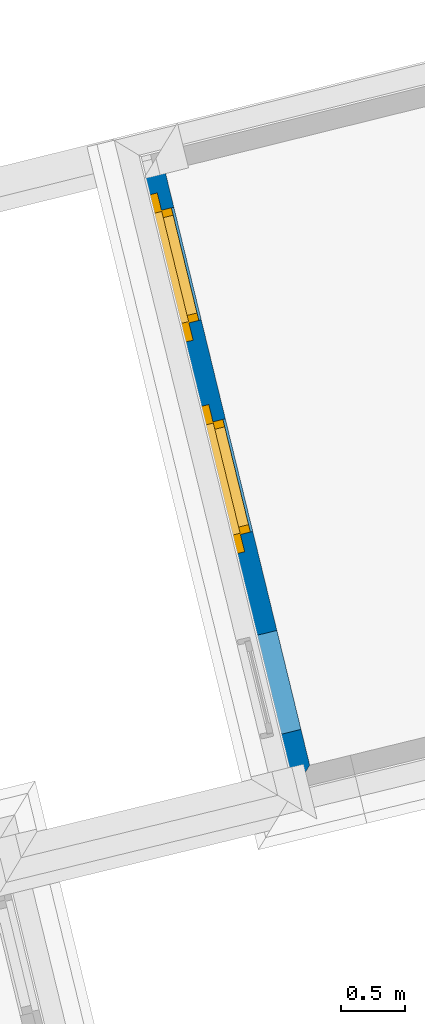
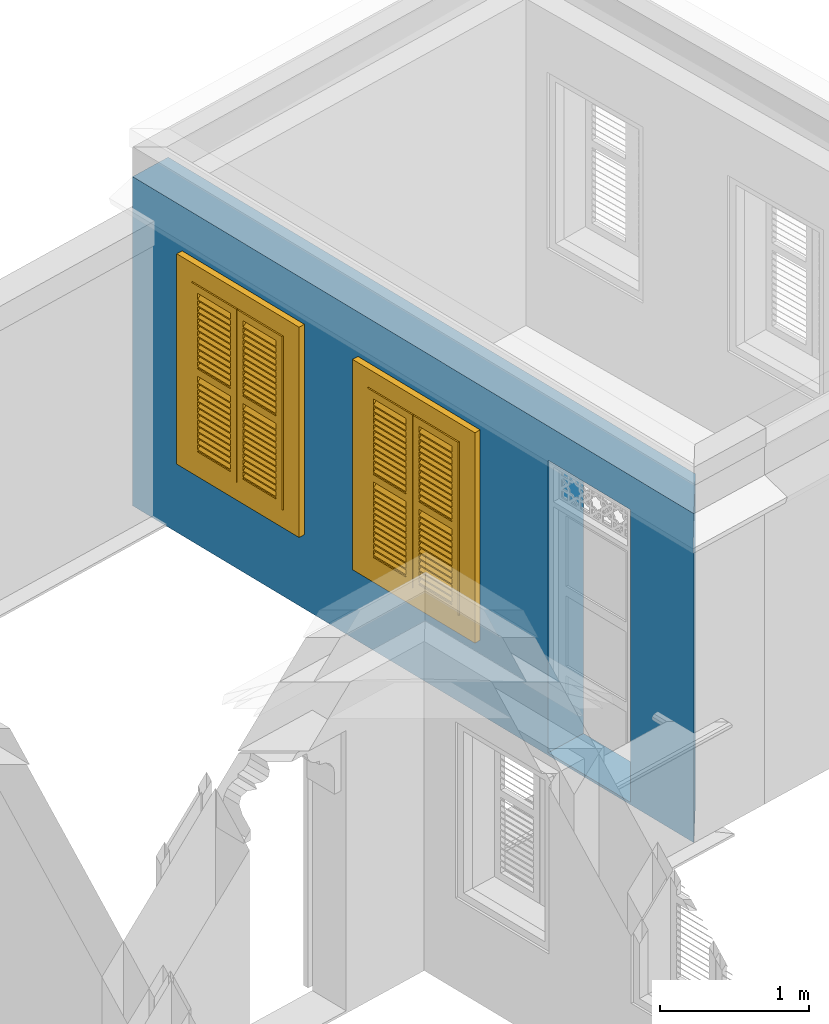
# One storey, part 4 of 7: 2 windows, 1 wall, 3 openings.
"""IFC4 building model written with IfcOpenShell, lengths in metres."""

from ifc_helpers import new_model, si_unit, frame, origin, origin_with_axes, place, context, subcontext, project, spatial, polyline, outline, extrude, faceted_brep, source, transform, mapped, material, layer, layer_set, layer_usage, type_object, type_shapes, element, fill, save


model = new_model("IFC4")

# Units and contexts
model_context = context("Model", 3, world=origin_with_axes())
body_context = subcontext(model_context, "Body", "Model", "MODEL_VIEW")
ifc_project = project(units=[si_unit("PLANEANGLEUNIT", "RADIAN"), si_unit("MASSUNIT", "GRAM", prefix="KILO"), si_unit("FORCEUNIT", "NEWTON", prefix="KILO"), si_unit("LENGTHUNIT", "METRE"), si_unit("AREAUNIT", "SQUARE_METRE"), si_unit("VOLUMEUNIT", "CUBIC_METRE")], contexts=[model_context, model_context])

# Site, building, storey
site_placement = place(None, origin_with_axes())
site = spatial("IfcSite", under=ifc_project, at=site_placement, Name="Site plot-4", CompositionType="ELEMENT")
building_placement = place(None, origin_with_axes())
building = spatial("IfcBuilding", under=site, at=building_placement, Name="Building plot-4", CompositionType="ELEMENT")
storey_placement = place(None, frame((0.0, 0.0, 5.4), z_axis=(0.0, 0.0, 1.0), x_axis=(1.0, 0.0, 0.0)))
storey = spatial("IfcBuildingStorey", under=building, at=storey_placement, Name="plot-4 2", CompositionType="ELEMENT", Elevation=5.4)

# Wall, openings, windows
ifc_material = material(Name="Masonry")
ifc_layer = layer(ifc_material, 0.33, ventilated=False)
ifc_layer_set = layer_set([ifc_layer], Name="exterior_0.08_0.25")
ifc_layer_usage = layer_usage(ifc_layer_set, "AXIS2", "POSITIVE", -0.25)
wall_type = type_object("IfcWallType", Name="exterior_0.08_0.25", PredefinedType="SOLIDWALL", material=ifc_layer_set)
wall_placement = place(storey_placement, frame((22.2331143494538, 20.4401934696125, 0.0), z_axis=(0.0, 0.0, 1.0), x_axis=(0.236608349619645, -0.971605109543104, 0.0)))
wall = element("IfcWall", 1, at=wall_placement, inside=storey, type_object=wall_type, material=ifc_layer_usage, Name="exterior", context=body_context, shape_type="SweptSolid", body=[
    extrude(outline(polyline([(-0.250000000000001, 0.0800000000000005), (-0.25, -0.25), (5.21117739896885, -0.250000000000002), (4.88117739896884, 0.0800000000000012), (-0.250000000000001, 0.0800000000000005)])), origin_with_axes(), (0.0, 0.0, 1.0), 2.7),
])
opening_1_placement = place(wall_placement, frame((0.371862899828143, 0.0, 0.75)))
opening_1 = element("IfcOpeningElement", 2, at=opening_1_placement, cuts=wall, Name="My Opening", ObjectType="Opening", context=body_context, shape_type="SweptSolid", body=[
    extrude(outline(polyline([(0.0, -0.269999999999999), (0.909999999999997, -0.270000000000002), (0.909999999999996, 1.1), (-3.33066907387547e-16, 1.1), (0.0, -0.269999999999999)])), origin_with_axes(), (0.0, 0.0, 1.0), 1.445),
])
opening_2_placement = place(wall_placement, frame((2.08186289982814, 0.0, 0.75)))
opening_2 = element("IfcOpeningElement", 3, at=opening_2_placement, cuts=wall, Name="My Opening", ObjectType="Opening", context=body_context, shape_type="SweptSolid", body=[
    extrude(outline(polyline([(0.0, -0.269999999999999), (0.910000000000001, -0.269999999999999), (0.910000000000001, 1.1), (-4.44089209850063e-16, 1.1), (0.0, -0.269999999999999)])), origin_with_axes(), (0.0, 0.0, 1.0), 1.445),
])
opening_3_placement = place(wall_placement, frame((3.79186289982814, 0.0, 0.0199999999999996)))
element("IfcOpeningElement", 4, at=opening_3_placement, cuts=wall, Name="My Opening", ObjectType="Opening", context=body_context, shape_type="SweptSolid", body=[
    extrude(outline(polyline([(0.0, -0.270000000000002), (0.800000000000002, -0.269999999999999), (0.800000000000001, 1.1), (-8.88178419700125e-16, 1.1), (0.0, -0.270000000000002)])), origin_with_axes(), (0.0, 0.0, 1.0), 2.4),
])
window_type = type_object("IfcWindowType", Name="shuttered_shorter", PartitioningType="DOUBLE_PANEL_HORIZONTAL", PredefinedType="NOTDEFINED")
shared_shape = source(origin(), body_context, "Body", "Brep", [
    faceted_brep([(0.393, 0.0, 0.622), (0.074, 0.0, 0.622), (0.074, 0.0, 0.632), (0.393, 0.0, 0.632), (0.074, -0.04, 0.592), (0.393, -0.04, 0.592), (0.393, -0.04, 0.582), (0.074, -0.04, 0.582), (0.517, 0.0, 0.682), (0.836, 0.0, 0.682), (0.836, 0.0, 0.672), (0.517, 0.0, 0.672), (0.517, -0.04, 0.642), (0.836, -0.04, 0.642), (0.836, -0.04, 0.632), (0.517, -0.04, 0.632), (0.517, 0.0, 0.632), (0.836, 0.0, 0.632), (0.836, 0.0, 0.622), (0.517, 0.0, 0.622), (0.517, -0.04, 0.592), (0.836, -0.04, 0.592), (0.836, -0.04, 0.582), (0.517, -0.04, 0.582), (0.517, 0.0, 0.232), (0.836, 0.0, 0.232), (0.836, 0.0, 0.222), (0.517, 0.0, 0.222), (0.517, -0.04, 0.192), (0.836, -0.04, 0.192), (0.836, -0.04, 0.182), (0.517, -0.04, 0.182), (0.517, 0.0, 0.532), (0.836, 0.0, 0.532), (0.836, 0.0, 0.522), (0.517, 0.0, 0.522), (0.517, -0.04, 0.492), (0.836, -0.04, 0.492), (0.836, -0.04, 0.482), (0.517, -0.04, 0.482), (0.517, 0.0, 0.482), (0.836, 0.0, 0.482), (0.836, 0.0, 0.472), (0.517, 0.0, 0.472), (0.517, -0.04, 0.442), (0.836, -0.04, 0.442), (0.836, -0.04, 0.432), (0.517, -0.04, 0.432), (0.517, 0.0, 0.582), (0.836, 0.0, 0.582), (0.836, 0.0, 0.572), (0.517, 0.0, 0.572), (0.517, -0.04, 0.542), (0.836, -0.04, 0.542), (0.836, -0.04, 0.532), (0.517, -0.04, 0.532), (0.517, 0.0, 0.182), (0.836, 0.0, 0.182), (0.836, 0.0, 0.172), (0.517, 0.0, 0.172), (0.517, -0.04, 0.142), (0.836, -0.04, 0.142), (0.836, -0.04, 0.132), (0.517, -0.04, 0.132), (0.517, 0.0, 0.382), (0.836, 0.0, 0.382), (0.836, 0.0, 0.372), (0.517, 0.0, 0.372), (0.517, -0.04, 0.342), (0.836, -0.04, 0.342), (0.836, -0.04, 0.332), (0.517, -0.04, 0.332), (0.517, 0.0, 0.432), (0.836, 0.0, 0.432), (0.836, 0.0, 0.422), (0.517, 0.0, 0.422), (0.517, -0.04, 0.392), (0.836, -0.04, 0.392), (0.836, -0.04, 0.382), (0.517, -0.04, 0.382), (0.517, 0.0, 0.132), (0.836, 0.0, 0.132), (0.836, 0.0, 0.122), (0.517, 0.0, 0.122), (0.517, -0.04, 0.092), (0.836, -0.04, 0.092), (0.836, -0.04, 0.082), (0.517, -0.04, 0.082), (0.517, 0.0, 0.282), (0.836, 0.0, 0.282), (0.836, 0.0, 0.272), (0.517, 0.0, 0.272), (0.517, -0.04, 0.242), (0.836, -0.04, 0.242), (0.836, -0.04, 0.232), (0.517, -0.04, 0.232), (0.517, 0.0, 0.332), (0.836, 0.0, 0.332), (0.836, 0.0, 0.322), (0.517, 0.0, 0.322), (0.517, -0.04, 0.292), (0.836, -0.04, 0.292), (0.836, -0.04, 0.282), (0.517, -0.04, 0.282), (0.517, 0.0, 1.362667), (0.836, 0.0, 1.362667), (0.836, 0.0, 1.352667), (0.517, 0.0, 1.352667), (0.517, -0.04, 1.322667), (0.836, -0.04, 1.322667), (0.836, -0.04, 1.312667), (0.517, -0.04, 1.312667), (0.517, 0.0, 1.312667), (0.836, 0.0, 1.312667), (0.836, 0.0, 1.302667), (0.517, 0.0, 1.302667), (0.517, -0.04, 1.272667), (0.836, -0.04, 1.272667), (0.836, -0.04, 1.262667), (0.517, -0.04, 1.262667), (0.517, 0.0, 0.912667), (0.836, 0.0, 0.912667), (0.836, 0.0, 0.902667), (0.517, 0.0, 0.902667), (0.517, -0.04, 0.872667), (0.836, -0.04, 0.872667), (0.836, -0.04, 0.862667), (0.517, -0.04, 0.862667), (0.517, 0.0, 1.212667), (0.836, 0.0, 1.212667), (0.836, 0.0, 1.202667), (0.517, 0.0, 1.202667), (0.517, -0.04, 1.172667), (0.836, -0.04, 1.172667), (0.836, -0.04, 1.162667), (0.517, -0.04, 1.162667), (0.517, 0.0, 1.162667), (0.836, 0.0, 1.162667), (0.836, 0.0, 1.152667), (0.517, 0.0, 1.152667), (0.517, -0.04, 1.122667), (0.836, -0.04, 1.122667), (0.836, -0.04, 1.112667), (0.517, -0.04, 1.112667), (0.517, 0.0, 1.262667), (0.836, 0.0, 1.262667), (0.836, 0.0, 1.252667), (0.517, 0.0, 1.252667), (0.517, -0.04, 1.222667), (0.836, -0.04, 1.222667), (0.836, -0.04, 1.212667), (0.517, -0.04, 1.212667), (0.517, 0.0, 0.862667), (0.836, 0.0, 0.862667), (0.836, 0.0, 0.852667), (0.517, 0.0, 0.852667), (0.517, -0.04, 0.822667), (0.836, -0.04, 0.822667), (0.836, -0.04, 0.812667), (0.517, -0.04, 0.812667), (0.517, 0.0, 1.062667), (0.836, 0.0, 1.062667), (0.836, 0.0, 1.052667), (0.517, 0.0, 1.052667), (0.517, -0.04, 1.022667), (0.836, -0.04, 1.022667), (0.836, -0.04, 1.012667), (0.517, -0.04, 1.012667), (0.517, 0.0, 1.112667), (0.836, 0.0, 1.112667), (0.836, 0.0, 1.102667), (0.517, 0.0, 1.102667), (0.517, -0.04, 1.072667), (0.836, -0.04, 1.072667), (0.836, -0.04, 1.062667), (0.517, -0.04, 1.062667), (0.517, 0.0, 0.812667), (0.836, 0.0, 0.812667), (0.836, 0.0, 0.802667), (0.517, 0.0, 0.802667), (0.517, -0.04, 0.772667), (0.836, -0.04, 0.772667), (0.836, -0.04, 0.762667), (0.517, -0.04, 0.762667), (0.517, 0.0, 0.962667), (0.836, 0.0, 0.962667), (0.836, 0.0, 0.952667), (0.517, 0.0, 0.952667), (0.517, -0.04, 0.922667), (0.836, -0.04, 0.922667), (0.836, -0.04, 0.912667), (0.517, -0.04, 0.912667), (0.517, 0.0, 1.012667), (0.836, 0.0, 1.012667), (0.836, 0.0, 1.002667), (0.517, 0.0, 1.002667), (0.517, -0.04, 0.972667), (0.836, -0.04, 0.972667), (0.836, -0.04, 0.962667), (0.517, -0.04, 0.962667), (0.074, 0.0, 0.682), (0.393, 0.0, 0.682), (0.393, 0.0, 0.672), (0.074, 0.0, 0.672), (0.074, -0.04, 0.642), (0.393, -0.04, 0.642), (0.393, -0.04, 0.632), (0.074, -0.04, 0.632), (0.074, 0.0, 0.232), (0.393, 0.0, 0.232), (0.393, 0.0, 0.222), (0.074, 0.0, 0.222), (0.074, -0.04, 0.192), (0.393, -0.04, 0.192), (0.393, -0.04, 0.182), (0.074, -0.04, 0.182), (0.074, 0.0, 0.532), (0.393, 0.0, 0.532), (0.393, 0.0, 0.522), (0.074, 0.0, 0.522), (0.074, -0.04, 0.492), (0.393, -0.04, 0.492), (0.393, -0.04, 0.482), (0.074, -0.04, 0.482), (0.074, 0.0, 0.482), (0.393, 0.0, 0.482), (0.393, 0.0, 0.472), (0.074, 0.0, 0.472), (0.074, -0.04, 0.442), (0.393, -0.04, 0.442), (0.393, -0.04, 0.432), (0.074, -0.04, 0.432), (0.074, 0.0, 0.582), (0.393, 0.0, 0.582), (0.393, 0.0, 0.572), (0.074, 0.0, 0.572), (0.074, -0.04, 0.542), (0.393, -0.04, 0.542), (0.393, -0.04, 0.532), (0.074, -0.04, 0.532), (0.074, 0.0, 0.182), (0.393, 0.0, 0.182), (0.393, 0.0, 0.172), (0.074, 0.0, 0.172), (0.074, -0.04, 0.142), (0.393, -0.04, 0.142), (0.393, -0.04, 0.132), (0.074, -0.04, 0.132), (0.074, 0.0, 0.382), (0.393, 0.0, 0.382), (0.393, 0.0, 0.372), (0.074, 0.0, 0.372), (0.074, -0.04, 0.342), (0.393, -0.04, 0.342), (0.393, -0.04, 0.332), (0.074, -0.04, 0.332), (0.074, 0.0, 0.432), (0.393, 0.0, 0.432), (0.393, 0.0, 0.422), (0.074, 0.0, 0.422), (0.074, -0.04, 0.392), (0.393, -0.04, 0.392), (0.393, -0.04, 0.382), (0.074, -0.04, 0.382), (0.074, 0.0, 0.132), (0.393, 0.0, 0.132), (0.393, 0.0, 0.122), (0.074, 0.0, 0.122), (0.074, -0.04, 0.092), (0.393, -0.04, 0.092), (0.393, -0.04, 0.082), (0.074, -0.04, 0.082), (0.074, 0.0, 0.282), (0.393, 0.0, 0.282), (0.393, 0.0, 0.272), (0.074, 0.0, 0.272), (0.074, -0.04, 0.242), (0.393, -0.04, 0.242), (0.393, -0.04, 0.232), (0.074, -0.04, 0.232), (0.074, 0.0, 0.332), (0.393, 0.0, 0.332), (0.393, 0.0, 0.322), (0.074, 0.0, 0.322), (0.074, -0.04, 0.292), (0.393, -0.04, 0.292), (0.393, -0.04, 0.282), (0.074, -0.04, 0.282), (0.074, 0.0, 1.362667), (0.393, 0.0, 1.362667), (0.393, 0.0, 1.352667), (0.074, 0.0, 1.352667), (0.074, -0.04, 1.322667), (0.393, -0.04, 1.322667), (0.393, -0.04, 1.312667), (0.074, -0.04, 1.312667), (0.074, 0.0, 1.312667), (0.393, 0.0, 1.312667), (0.393, 0.0, 1.302667), (0.074, 0.0, 1.302667), (0.074, -0.04, 1.272667), (0.393, -0.04, 1.272667), (0.393, -0.04, 1.262667), (0.074, -0.04, 1.262667), (0.074, 0.0, 0.912667), (0.393, 0.0, 0.912667), (0.393, 0.0, 0.902667), (0.074, 0.0, 0.902667), (0.074, -0.04, 0.872667), (0.393, -0.04, 0.872667), (0.393, -0.04, 0.862667), (0.074, -0.04, 0.862667), (0.074, 0.0, 1.212667), (0.393, 0.0, 1.212667), (0.393, 0.0, 1.202667), (0.074, 0.0, 1.202667), (0.074, -0.04, 1.172667), (0.393, -0.04, 1.172667), (0.393, -0.04, 1.162667), (0.074, -0.04, 1.162667), (0.074, 0.0, 1.162667), (0.393, 0.0, 1.162667), (0.393, 0.0, 1.152667), (0.074, 0.0, 1.152667), (0.074, -0.04, 1.122667), (0.393, -0.04, 1.122667), (0.393, -0.04, 1.112667), (0.074, -0.04, 1.112667), (0.074, 0.0, 1.262667), (0.393, 0.0, 1.262667), (0.393, 0.0, 1.252667), (0.074, 0.0, 1.252667), (0.074, -0.04, 1.222667), (0.393, -0.04, 1.222667), (0.393, -0.04, 1.212667), (0.074, -0.04, 1.212667), (0.074, 0.0, 0.862667), (0.393, 0.0, 0.862667), (0.393, 0.0, 0.852667), (0.074, 0.0, 0.852667), (0.074, -0.04, 0.822667), (0.393, -0.04, 0.822667), (0.393, -0.04, 0.812667), (0.074, -0.04, 0.812667), (0.074, 0.0, 1.062667), (0.393, 0.0, 1.062667), (0.393, 0.0, 1.052667), (0.074, 0.0, 1.052667), (0.074, -0.04, 1.022667), (0.393, -0.04, 1.022667), (0.393, -0.04, 1.012667), (0.074, -0.04, 1.012667), (0.074, 0.0, 1.112667), (0.393, 0.0, 1.112667), (0.393, 0.0, 1.102667), (0.074, 0.0, 1.102667), (0.074, -0.04, 1.072667), (0.393, -0.04, 1.072667), (0.393, -0.04, 1.062667), (0.074, -0.04, 1.062667), (0.074, 0.0, 0.812667), (0.393, 0.0, 0.812667), (0.393, 0.0, 0.802667), (0.074, 0.0, 0.802667), (0.074, -0.04, 0.772667), (0.393, -0.04, 0.772667), (0.393, -0.04, 0.762667), (0.074, -0.04, 0.762667), (0.074, 0.0, 0.962667), (0.393, 0.0, 0.962667), (0.393, 0.0, 0.952667), (0.074, 0.0, 0.952667), (0.074, -0.04, 0.922667), (0.393, -0.04, 0.922667), (0.393, -0.04, 0.912667), (0.074, -0.04, 0.912667), (0.074, 0.0, 1.012667), (0.393, 0.0, 1.012667), (0.393, 0.0, 1.002667), (0.074, 0.0, 1.002667), (0.074, -0.04, 0.972667), (0.393, -0.04, 0.972667), (0.393, -0.04, 0.962667), (0.074, -0.04, 0.962667), (0.517, -0.04, 0.072), (0.457, -0.04, 0.012), (0.896, -0.04, 0.012), (0.836, -0.04, 0.072), (0.457, -0.04, 0.692667), (0.517, -0.04, 0.692667), (0.457, 0.0, 0.012), (0.896, 0.0, 0.012), (0.836, -0.04, 0.692667), (0.896, -0.04, 0.692667), (0.836, 0.0, 0.072), (0.517, 0.0, 0.072), (0.457, 0.0, 0.692667), (0.517, 0.0, 0.692667), (0.517, -0.04, 0.752666), (0.457, -0.04, 0.752666), (0.896, 0.0, 0.692667), (0.836, 0.0, 0.692667), (0.836, -0.04, 0.752666), (0.896, -0.04, 0.752666), (0.457, 0.0, 0.752666), (0.457, -0.04, 1.433333), (0.517, -0.04, 1.373333), (0.896, 0.0, 0.752666), (0.836, -0.04, 1.373333), (0.896, -0.04, 1.433333), (0.457, 0.0, 1.433333), (0.517, 0.0, 0.752666), (0.836, 0.0, 0.752666), (0.517, 0.0, 1.373333), (0.896, 0.0, 1.433333), (0.836, 0.0, 1.373333), (0.074, -0.04, 0.072), (0.014, -0.04, 0.012), (0.453, -0.04, 0.012), (0.393, -0.04, 0.072), (0.014, -0.04, 0.692667), (0.074, -0.04, 0.692667), (0.014, 0.0, 0.012), (0.453, 0.0, 0.012), (0.393, -0.04, 0.692667), (0.453, -0.04, 0.692667), (0.393, 0.0, 0.072), (0.074, 0.0, 0.072), (0.014, 0.0, 0.692667), (0.074, 0.0, 0.692667), (0.074, -0.04, 0.752666), (0.014, -0.04, 0.752666), (0.453, 0.0, 0.692667), (0.393, 0.0, 0.692667), (0.393, -0.04, 0.752666), (0.453, -0.04, 0.752666), (0.014, 0.0, 0.752666), (0.014, -0.04, 1.433333), (0.074, -0.04, 1.373333), (0.453, 0.0, 0.752666), (0.393, -0.04, 1.373333), (0.453, -0.04, 1.433333), (0.014, 0.0, 1.433333), (0.074, 0.0, 0.752666), (0.393, 0.0, 0.752666), (0.074, 0.0, 1.373333), (0.453, 0.0, 1.433333), (0.393, 0.0, 1.373333), (0.0, 0.33, 1.445), (0.91, 0.33, 1.445), (0.85, 0.33, 1.385), (0.06, 0.33, 1.385), (0.91, 0.25, 1.445), (0.0, 0.25, 1.445), (0.91, 0.25, 1.445), (0.85, 0.33, 0.06), (0.91, 0.33, 0.0), (0.85, 0.25, 1.385), (0.06, 0.25, 1.385), (0.0, 0.33, 0.0), (0.06, 0.33, 0.06), (0.0, 0.25, 0.0), (0.91, 0.25, 0.0), (0.85, 0.25, 0.06), (0.06, 0.25, 0.06), (1.05, 0.25, 1.585), (-0.14, 0.25, 1.585), (-0.14, -0.03, 1.585), (1.05, -0.03, 1.585), (0.9, -0.03, 1.435), (0.01, -0.03, 1.435), (0.01, 0.25, 1.435), (0.9, 0.25, 1.435), (0.9, 0.25, 0.01), (0.9, -0.03, 0.01), (1.05, -0.03, -0.14), (1.05, 0.25, -0.14), (0.01, -0.03, 0.01), (0.01, 0.25, 0.01), (-0.14, -0.03, -0.14), (-0.14, 0.25, -0.14)], [[[0, 1, 2, 3]], [[4, 5, 3, 2]], [[5, 6, 0, 3]], [[1, 0, 6, 7]], [[2, 1, 7, 4]], [[5, 4, 7, 6]], [[8, 9, 10, 11]], [[12, 13, 9, 8]], [[13, 14, 10, 9]], [[14, 15, 11, 10]], [[15, 12, 8, 11]], [[13, 12, 15, 14]], [[16, 17, 18, 19]], [[20, 21, 17, 16]], [[21, 22, 18, 17]], [[22, 23, 19, 18]], [[23, 20, 16, 19]], [[21, 20, 23, 22]], [[24, 25, 26, 27]], [[28, 29, 25, 24]], [[29, 30, 26, 25]], [[30, 31, 27, 26]], [[31, 28, 24, 27]], [[29, 28, 31, 30]], [[32, 33, 34, 35]], [[36, 37, 33, 32]], [[37, 38, 34, 33]], [[38, 39, 35, 34]], [[39, 36, 32, 35]], [[37, 36, 39, 38]], [[40, 41, 42, 43]], [[44, 45, 41, 40]], [[45, 46, 42, 41]], [[46, 47, 43, 42]], [[47, 44, 40, 43]], [[45, 44, 47, 46]], [[48, 49, 50, 51]], [[52, 53, 49, 48]], [[53, 54, 50, 49]], [[54, 55, 51, 50]], [[55, 52, 48, 51]], [[53, 52, 55, 54]], [[56, 57, 58, 59]], [[60, 61, 57, 56]], [[61, 62, 58, 57]], [[62, 63, 59, 58]], [[63, 60, 56, 59]], [[61, 60, 63, 62]], [[64, 65, 66, 67]], [[68, 69, 65, 64]], [[69, 70, 66, 65]], [[70, 71, 67, 66]], [[71, 68, 64, 67]], [[69, 68, 71, 70]], [[72, 73, 74, 75]], [[76, 77, 73, 72]], [[77, 78, 74, 73]], [[78, 79, 75, 74]], [[79, 76, 72, 75]], [[77, 76, 79, 78]], [[80, 81, 82, 83]], [[84, 85, 81, 80]], [[85, 86, 82, 81]], [[86, 87, 83, 82]], [[87, 84, 80, 83]], [[85, 84, 87, 86]], [[88, 89, 90, 91]], [[92, 93, 89, 88]], [[93, 94, 90, 89]], [[94, 95, 91, 90]], [[95, 92, 88, 91]], [[93, 92, 95, 94]], [[96, 97, 98, 99]], [[100, 101, 97, 96]], [[101, 102, 98, 97]], [[102, 103, 99, 98]], [[103, 100, 96, 99]], [[101, 100, 103, 102]], [[104, 105, 106, 107]], [[108, 109, 105, 104]], [[109, 110, 106, 105]], [[110, 111, 107, 106]], [[111, 108, 104, 107]], [[109, 108, 111, 110]], [[112, 113, 114, 115]], [[116, 117, 113, 112]], [[117, 118, 114, 113]], [[118, 119, 115, 114]], [[119, 116, 112, 115]], [[117, 116, 119, 118]], [[120, 121, 122, 123]], [[124, 125, 121, 120]], [[125, 126, 122, 121]], [[126, 127, 123, 122]], [[127, 124, 120, 123]], [[125, 124, 127, 126]], [[128, 129, 130, 131]], [[132, 133, 129, 128]], [[133, 134, 130, 129]], [[134, 135, 131, 130]], [[135, 132, 128, 131]], [[133, 132, 135, 134]], [[136, 137, 138, 139]], [[140, 141, 137, 136]], [[141, 142, 138, 137]], [[142, 143, 139, 138]], [[139, 143, 140, 136]], [[141, 140, 143, 142]], [[144, 145, 146, 147]], [[148, 149, 145, 144]], [[149, 150, 146, 145]], [[150, 151, 147, 146]], [[151, 148, 144, 147]], [[149, 148, 151, 150]], [[152, 153, 154, 155]], [[156, 157, 153, 152]], [[157, 158, 154, 153]], [[158, 159, 155, 154]], [[159, 156, 152, 155]], [[157, 156, 159, 158]], [[160, 161, 162, 163]], [[164, 165, 161, 160]], [[165, 166, 162, 161]], [[166, 167, 163, 162]], [[167, 164, 160, 163]], [[165, 164, 167, 166]], [[168, 169, 170, 171]], [[172, 173, 169, 168]], [[173, 174, 170, 169]], [[174, 175, 171, 170]], [[175, 172, 168, 171]], [[173, 172, 175, 174]], [[176, 177, 178, 179]], [[180, 181, 177, 176]], [[181, 182, 178, 177]], [[182, 183, 179, 178]], [[183, 180, 176, 179]], [[181, 180, 183, 182]], [[184, 185, 186, 187]], [[188, 189, 185, 184]], [[189, 190, 186, 185]], [[190, 191, 187, 186]], [[191, 188, 184, 187]], [[189, 188, 191, 190]], [[192, 193, 194, 195]], [[196, 197, 193, 192]], [[197, 198, 194, 193]], [[198, 199, 195, 194]], [[199, 196, 192, 195]], [[197, 196, 199, 198]], [[200, 201, 202, 203]], [[204, 205, 201, 200]], [[205, 206, 202, 201]], [[206, 207, 203, 202]], [[207, 204, 200, 203]], [[205, 204, 207, 206]], [[208, 209, 210, 211]], [[212, 213, 209, 208]], [[213, 214, 210, 209]], [[214, 215, 211, 210]], [[215, 212, 208, 211]], [[213, 212, 215, 214]], [[216, 217, 218, 219]], [[220, 221, 217, 216]], [[221, 222, 218, 217]], [[222, 223, 219, 218]], [[223, 220, 216, 219]], [[221, 220, 223, 222]], [[224, 225, 226, 227]], [[228, 229, 225, 224]], [[229, 230, 226, 225]], [[230, 231, 227, 226]], [[231, 228, 224, 227]], [[229, 228, 231, 230]], [[232, 233, 234, 235]], [[236, 237, 233, 232]], [[237, 238, 234, 233]], [[238, 239, 235, 234]], [[239, 236, 232, 235]], [[237, 236, 239, 238]], [[240, 241, 242, 243]], [[244, 245, 241, 240]], [[245, 246, 242, 241]], [[246, 247, 243, 242]], [[247, 244, 240, 243]], [[245, 244, 247, 246]], [[248, 249, 250, 251]], [[252, 253, 249, 248]], [[253, 254, 250, 249]], [[254, 255, 251, 250]], [[255, 252, 248, 251]], [[253, 252, 255, 254]], [[256, 257, 258, 259]], [[260, 261, 257, 256]], [[261, 262, 258, 257]], [[262, 263, 259, 258]], [[263, 260, 256, 259]], [[261, 260, 263, 262]], [[264, 265, 266, 267]], [[268, 269, 265, 264]], [[269, 270, 266, 265]], [[270, 271, 267, 266]], [[271, 268, 264, 267]], [[269, 268, 271, 270]], [[272, 273, 274, 275]], [[276, 277, 273, 272]], [[277, 278, 274, 273]], [[278, 279, 275, 274]], [[279, 276, 272, 275]], [[277, 276, 279, 278]], [[280, 281, 282, 283]], [[284, 285, 281, 280]], [[285, 286, 282, 281]], [[286, 287, 283, 282]], [[287, 284, 280, 283]], [[285, 284, 287, 286]], [[288, 289, 290, 291]], [[292, 293, 289, 288]], [[293, 294, 290, 289]], [[294, 295, 291, 290]], [[295, 292, 288, 291]], [[293, 292, 295, 294]], [[296, 297, 298, 299]], [[300, 301, 297, 296]], [[301, 302, 298, 297]], [[302, 303, 299, 298]], [[303, 300, 296, 299]], [[301, 300, 303, 302]], [[304, 305, 306, 307]], [[308, 309, 305, 304]], [[309, 310, 306, 305]], [[310, 311, 307, 306]], [[311, 308, 304, 307]], [[309, 308, 311, 310]], [[312, 313, 314, 315]], [[316, 317, 313, 312]], [[317, 318, 314, 313]], [[318, 319, 315, 314]], [[319, 316, 312, 315]], [[317, 316, 319, 318]], [[320, 321, 322, 323]], [[324, 325, 321, 320]], [[325, 326, 322, 321]], [[326, 327, 323, 322]], [[327, 324, 320, 323]], [[325, 324, 327, 326]], [[328, 329, 330, 331]], [[332, 333, 329, 328]], [[333, 334, 330, 329]], [[334, 335, 331, 330]], [[335, 332, 328, 331]], [[333, 332, 335, 334]], [[336, 337, 338, 339]], [[340, 341, 337, 336]], [[341, 342, 338, 337]], [[342, 343, 339, 338]], [[343, 340, 336, 339]], [[341, 340, 343, 342]], [[344, 345, 346, 347]], [[348, 349, 345, 344]], [[349, 350, 346, 345]], [[350, 351, 347, 346]], [[351, 348, 344, 347]], [[349, 348, 351, 350]], [[352, 353, 354, 355]], [[356, 357, 353, 352]], [[357, 358, 354, 353]], [[358, 359, 355, 354]], [[359, 356, 352, 355]], [[357, 356, 359, 358]], [[360, 361, 362, 363]], [[364, 365, 361, 360]], [[365, 366, 362, 361]], [[366, 367, 363, 362]], [[367, 364, 360, 363]], [[365, 364, 367, 366]], [[368, 369, 370, 371]], [[372, 373, 369, 368]], [[373, 374, 370, 369]], [[374, 375, 371, 370]], [[375, 372, 368, 371]], [[373, 372, 375, 374]], [[376, 377, 378, 379]], [[380, 381, 377, 376]], [[381, 382, 378, 377]], [[382, 383, 379, 378]], [[383, 380, 376, 379]], [[381, 380, 383, 382]], [[384, 385, 386, 387]], [[388, 385, 384, 389]], [[390, 391, 386, 385]], [[392, 387, 386, 393]], [[384, 387, 394, 395]], [[390, 385, 388, 396]], [[389, 384, 395, 397]], [[389, 398, 399, 388]], [[390, 395, 394, 391]], [[400, 393, 386, 391]], [[387, 392, 401, 394]], [[402, 392, 393, 403]], [[396, 388, 399, 404]], [[390, 396, 397, 395]], [[392, 389, 397, 401]], [[398, 389, 392, 402]], [[405, 399, 398, 406]], [[394, 401, 400, 391]], [[407, 403, 393, 400]], [[408, 402, 403, 409]], [[404, 399, 405, 410]], [[411, 397, 396, 404]], [[397, 411, 412, 401]], [[398, 402, 412, 411]], [[406, 398, 411, 413]], [[405, 406, 408, 409]], [[401, 412, 407, 400]], [[414, 409, 403, 407]], [[402, 408, 415, 412]], [[405, 409, 414, 410]], [[404, 410, 413, 411]], [[408, 406, 413, 415]], [[412, 415, 414, 407]], [[413, 410, 414, 415]], [[416, 417, 418, 419]], [[420, 417, 416, 421]], [[422, 423, 418, 417]], [[424, 419, 418, 425]], [[416, 419, 426, 427]], [[422, 417, 420, 428]], [[421, 416, 427, 429]], [[421, 430, 431, 420]], [[422, 427, 426, 423]], [[432, 425, 418, 423]], [[419, 424, 433, 426]], [[434, 424, 425, 435]], [[428, 420, 431, 436]], [[422, 428, 429, 427]], [[424, 421, 429, 433]], [[430, 421, 424, 434]], [[437, 431, 430, 438]], [[426, 433, 432, 423]], [[439, 435, 425, 432]], [[440, 434, 435, 441]], [[436, 431, 437, 442]], [[443, 429, 428, 436]], [[429, 443, 444, 433]], [[430, 434, 444, 443]], [[438, 430, 443, 445]], [[437, 438, 440, 441]], [[433, 444, 439, 432]], [[446, 441, 435, 439]], [[434, 440, 447, 444]], [[437, 441, 446, 442]], [[436, 442, 445, 443]], [[440, 438, 445, 447]], [[444, 447, 446, 439]], [[445, 442, 446, 447]], [[448, 449, 450, 451]], [[452, 449, 448]], [[448, 453, 454]], [[448, 454, 452]], [[455, 450, 449, 456]], [[451, 450, 457, 458]], [[459, 448, 451, 460]], [[448, 459, 461, 453]], [[454, 453, 458, 457]], [[462, 452, 454]], [[454, 457, 463]], [[454, 463, 462]], [[456, 449, 452, 462]], [[450, 455, 463, 457]], [[456, 459, 460, 455]], [[460, 451, 458, 464]], [[459, 456, 462, 461]], [[464, 458, 453, 461]], [[461, 462, 463, 464]], [[455, 460, 464, 463]], [[465, 466, 467, 468]], [[469, 470, 471, 472]], [[473, 474, 469, 472]], [[465, 468, 475, 476]], [[470, 477, 478, 471]], [[474, 473, 478, 477]], [[474, 477, 479, 475]], [[470, 467, 479, 477]], [[470, 469, 468, 467]], [[474, 475, 468, 469]], [[471, 478, 480, 466]], [[473, 472, 465, 476]], [[473, 476, 480, 478]], [[466, 465, 472, 471]], [[480, 476, 475, 479]], [[480, 479, 467, 466]]]),
])
type_shapes(window_type, [shared_shape])
window_1_placement = place(storey_placement, frame((22.0587668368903, 20.0150053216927, 0.75), z_axis=(0.0, 0.0, 1.0), x_axis=(0.215313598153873, -0.884160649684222, 0.0)))
window_1 = element("IfcWindow", 5, at=window_1_placement, inside=storey, type_object=window_type, Name="bedroom sahn window", OverallHeight=1.445, OverallWidth=0.91, context=body_context, shape_type="MappedRepresentation", body=[
    mapped(shared_shape, transform((0.0, 0.0, 0.0), scale=1.0)),
])
fill(opening_1, window_1)
window_2_placement = place(storey_placement, frame((22.4633671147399, 18.3535605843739, 0.75), z_axis=(0.0, 0.0, 1.0), x_axis=(0.215313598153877, -0.884160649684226, 0.0)))
window_2 = element("IfcWindow", 6, at=window_2_placement, inside=storey, type_object=window_type, Name="bedroom sahn window", OverallHeight=1.445, OverallWidth=0.91, context=body_context, shape_type="MappedRepresentation", body=[
    mapped(shared_shape, transform((0.0, 0.0, 0.0), scale=1.0)),
])
fill(opening_2, window_2)

save(model, "model.ifc")
